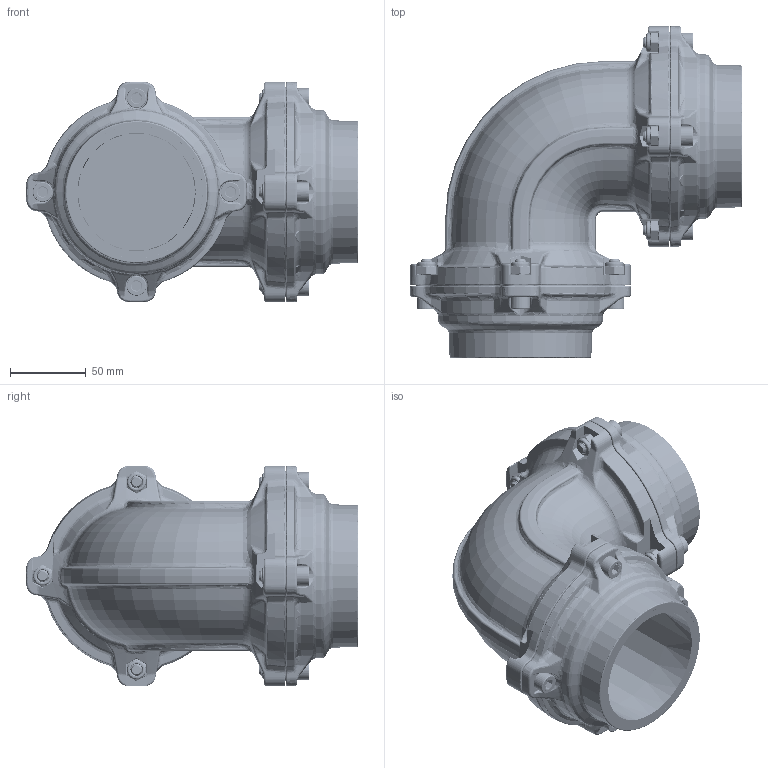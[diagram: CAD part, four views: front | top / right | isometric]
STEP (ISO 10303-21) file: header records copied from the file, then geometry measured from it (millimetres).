
FILE_DESCRIPTION (( 'STEP AP214' ), '1' );
FILE_NAME ('9013000007.STEP', '2014-04-17T07:58:19', ( '' ), ( '' ), 'SwSTEP 2.0', 'SolidWorks 2013', '' );
FILE_SCHEMA (( 'AUTOMOTIVE_DESIGN' ));
Length unit declared in the file: millimetre
Products named in the file (1): 9013000007
Bounding box: 218.48 x 218.48 x 145.38 mm (x, y, z)
Surface area: 205860.1 mm2 (no closed solid volume)
Topology: 0 solids, 11 shells, 4610 faces, 12145 edges, 7606 vertices
Faces by surface type: bspline 2402, cylinder 879, plane 750, cone 542, torus 37
Entity records: 327152 total; most frequent: CARTESIAN_POINT 214410, ORIENTED_EDGE 24068, EDGE_CURVE 12034, DIRECTION 10882, VERTEX_POINT 7606, B_SPLINE_CURVE_WITH_KNOTS 6277, EDGE_LOOP 4802, ADVANCED_FACE 4610
